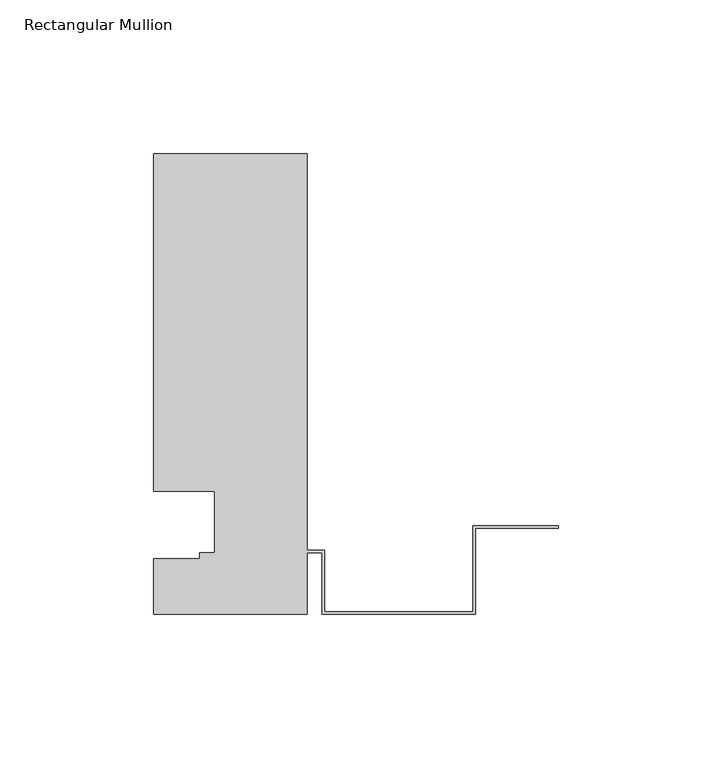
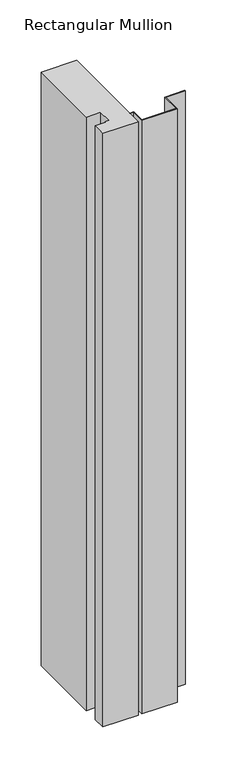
"""IFC4 building model written with IfcOpenShell, lengths in millimetres: member geometry, Rectangular Mullion : TR_CW_ALU_border_GROOVE."""

import ifcopenshell
import ifcopenshell.guid

model = None  # the IFC model being written
_history = None  # IfcOwnerHistory: only IFC2X3 demands one
_inside = {}  # id of a spatial element -> (the spatial element, [elements in it])
_under = {}  # id of a project, library or spatial element -> (it, [spatial elements below it])
_declared = {}  # id of a project -> (the project, [libraries it declares])
_typed = {}  # id of a type object -> (the type object, [elements of that type])
_made_of = {}  # id of a material, layer set ... -> (it, [elements and type objects made of it])


def new_model(schema):
    """Start an empty IFC model of exactly this schema.

    Asked for "IFC4X3", IfcOpenShell would pick the latest addendum, in which some entities
    have other attributes; the version numbers below select the first issue.
    IFC2X3 requires an IfcOwnerHistory on every rooted entity: one is made here for all.
    """
    global model, _history
    if schema == "IFC4X3":
        model = ifcopenshell.file(schema_version=(4, 3, 0, 0))
    else:
        model = ifcopenshell.file(schema=schema)
    _inside.clear()
    _under.clear()
    _declared.clear()
    _typed.clear()
    _made_of.clear()
    _history = None
    if model.schema == "IFC2X3":
        org = make("IfcOrganization", Name="unknown")
        user = make(
            "IfcPersonAndOrganization",
            ThePerson=make("IfcPerson", FamilyName="unknown"),
            TheOrganization=org,
        )
        app = make(
            "IfcApplication",
            ApplicationDeveloper=org,
            Version="unknown",
            ApplicationFullName="unknown",
            ApplicationIdentifier="unknown",
        )
        _history = make(
            "IfcOwnerHistory",
            OwningUser=user,
            OwningApplication=app,
            ChangeAction="ADDED",
            CreationDate=0,
        )
    return model


def make(cls, **values):
    """One entity of the class cls with the attributes given. An attribute that is None is left unset."""
    return model.create_entity(
        cls, **{name: value for name, value in values.items() if value is not None}
    )


def rooted(cls, **values):
    """An entity with a GlobalId (a new one), such as an element, a storey or a relation."""
    return make(cls, GlobalId=ifcopenshell.guid.new(), OwnerHistory=_history, **values)


def si_unit(unit_type, name, prefix=None):
    """IfcSIUnit, for example si_unit("LENGTHUNIT", "METRE", prefix="MILLI")."""
    return make("IfcSIUnit", UnitType=unit_type, Prefix=prefix, Name=name)


def assignment(units):
    """IfcUnitAssignment: the units of a project."""
    return None if units is None else make("IfcUnitAssignment", Units=units)


def point(xyz):
    """IfcCartesianPoint."""
    return None if xyz is None else make("IfcCartesianPoint", Coordinates=xyz)


def direction(xyz):
    """IfcDirection."""
    return None if xyz is None else make("IfcDirection", DirectionRatios=xyz)


def frame(location, z_axis=None, x_axis=None):
    """IfcAxis2Placement3D, a coordinate frame: its origin and axes. An axis left out is left unset."""
    return make(
        "IfcAxis2Placement3D",
        Location=point(location),
        Axis=direction(z_axis),
        RefDirection=direction(x_axis),
    )


def origin():
    """The frame at (0, 0, 0) with its axes left unset."""
    return frame((0.0, 0.0, 0.0))


def place(relative_to, where):
    """IfcLocalPlacement: puts the frame where relative to a parent placement (None: the world)."""
    return make(
        "IfcLocalPlacement", PlacementRelTo=relative_to, RelativePlacement=where
    )


def context(
    kind, dimensions, precision=None, world=None, true_north=None, identifier=None
):
    """IfcGeometricRepresentationContext, for example the 3D "Model" context."""
    return make(
        "IfcGeometricRepresentationContext",
        ContextIdentifier=identifier,
        ContextType=kind,
        CoordinateSpaceDimension=dimensions,
        Precision=precision,
        WorldCoordinateSystem=world,
        TrueNorth=true_north,
    )


def project(units=None, contexts=None):
    """IfcProject with its units and contexts."""
    return rooted(
        "IfcProject",
        Name="project",
        RepresentationContexts=contexts,
        UnitsInContext=assignment(units),
    )


def spatial(cls, under=None, at=None, **own):
    """A site, building, storey or space (cls), placed at a placement, below another one or the project."""
    s = rooted(cls, ObjectPlacement=at, **own)
    if under is not None:
        _under.setdefault(under.id(), (under, []))[1].append(s)
    return s


def polyline(points):
    """IfcPolyline through the points."""
    return make("IfcPolyline", Points=[point(p) for p in points])


def outline(outer, holes=None, kind="AREA"):
    """IfcArbitraryClosedProfileDef: a profile drawn as a closed curve; with holes, ...WithVoids."""
    if holes is None:
        return make("IfcArbitraryClosedProfileDef", ProfileType=kind, OuterCurve=outer)
    return make(
        "IfcArbitraryProfileDefWithVoids",
        ProfileType=kind,
        OuterCurve=outer,
        InnerCurves=holes,
    )


def extrude(swept, where, along, depth):
    """IfcExtrudedAreaSolid: the profile swept, set in the frame where, extruded along a direction by depth."""
    return make(
        "IfcExtrudedAreaSolid",
        SweptArea=swept,
        Position=where,
        ExtrudedDirection=direction(along),
        Depth=depth,
    )


def shape(context_of_items, identifier, shape_type, items):
    """IfcShapeRepresentation: the items that make up one representation, for example the "Body"."""
    return make(
        "IfcShapeRepresentation",
        ContextOfItems=context_of_items,
        RepresentationIdentifier=identifier,
        RepresentationType=shape_type,
        Items=items,
    )


def source(mapping_origin, context_of_items, identifier, shape_type, items):
    """IfcRepresentationMap: a shape defined once, which mapped items show again and again."""
    return make(
        "IfcRepresentationMap",
        MappingOrigin=mapping_origin,
        MappedRepresentation=shape(context_of_items, identifier, shape_type, items),
    )


def transform(
    local_origin,
    x_axis=None,
    y_axis=None,
    z_axis=None,
    scale=None,
    scale2=None,
    scale3=None,
    uniform=True,
):
    """IfcCartesianTransformationOperator3D, or its non-uniform kind. x_axis, y_axis, z_axis: its Axis1, 2, 3."""
    if uniform:
        return make(
            "IfcCartesianTransformationOperator3D",
            Axis1=direction(x_axis),
            Axis2=direction(y_axis),
            LocalOrigin=point(local_origin),
            Scale=scale,
            Axis3=direction(z_axis),
        )
    return make(
        "IfcCartesianTransformationOperator3DnonUniform",
        Axis1=direction(x_axis),
        Axis2=direction(y_axis),
        LocalOrigin=point(local_origin),
        Scale=scale,
        Axis3=direction(z_axis),
        Scale2=scale2,
        Scale3=scale3,
    )


def mapped(mapping_source, mapping_target):
    """IfcMappedItem: shows the shape of a source again, moved by a transform."""
    return make(
        "IfcMappedItem", MappingSource=mapping_source, MappingTarget=mapping_target
    )


def made_of(thing, what):
    """Note that an element or type object is made of a material, layer set ...; save() writes the relation."""
    if what is not None:
        _made_of.setdefault(what.id(), (what, []))[1].append(thing)
    return thing


def element(
    cls,
    number,
    at=None,
    inside=None,
    cuts=None,
    type_object=None,
    material=None,
    context=None,
    identifier="Body",
    shape_type=None,
    held_by="IfcProductDefinitionShape",
    body=None,
    shapes=None,
    **own,
):
    """One element of the class cls, such as IfcWall. Its Tag is "e" and its number.

    at: its placement. inside: the storey or other place that contains it. cuts: it is an
    opening in that element (IfcRelVoidsElement). A single representation is given by context,
    identifier, shape_type and body (its items); several are given by shapes. held_by: the class
    of the entity that holds the representations. save() writes the other relations.
    """
    e = rooted(cls, Tag="e%d" % number, ObjectPlacement=at, **own)
    if body is not None:
        shapes = [shape(context, identifier, shape_type, body)]
    if shapes is not None:
        e.Representation = make(held_by, Representations=shapes)
    if inside is not None:
        _inside.setdefault(inside.id(), (inside, []))[1].append(e)
    if cuts is not None:
        rooted(
            "IfcRelVoidsElement", RelatingBuildingElement=cuts, RelatedOpeningElement=e
        )
    if type_object is not None:
        _typed.setdefault(type_object.id(), (type_object, []))[1].append(e)
    return made_of(e, material)


def aggregate(whole, parts):
    """IfcRelAggregates: a whole, such as a stair, and the parts it consists of."""
    return rooted("IfcRelAggregates", RelatingObject=whole, RelatedObjects=parts)


def save(model, path):
    """Write the relations noted so far, then the file.

    IfcRelAggregates (storeys below a building ...), IfcRelContainedInSpatialStructure (elements
    in a storey), IfcRelDefinesByType, IfcRelAssociatesMaterial and IfcRelDeclares: one each for
    every whole, place, type object, material and project.
    """
    for whole, parts in _under.values():
        aggregate(whole, parts)
    for where, things in _inside.values():
        rooted(
            "IfcRelContainedInSpatialStructure",
            RelatedElements=things,
            RelatingStructure=where,
        )
    for kind, things in _typed.values():
        rooted("IfcRelDefinesByType", RelatedObjects=things, RelatingType=kind)
    for what, things in _made_of.values():
        rooted("IfcRelAssociatesMaterial", RelatedObjects=things, RelatingMaterial=what)
    for by, libraries in _declared.values():
        rooted("IfcRelDeclares", RelatingContext=by, RelatedDefinitions=libraries)
    model.write(path)


def rectangular_mullion_a6eaba93(model_context):
    return source(origin(), model_context, "Body", "SweptSolid", [
        extrude(outline(polyline([(-132.0, 0.0), (-132.0, 18.0204111), (-117.0, 18.0204111), (-117.0, 20.0), (-112.0, 20.0), (-112.0, 40.0), (-132.0, 40.0), (-132.0, 150.0), (-82.0, 150.0), (-82.0, 20.8), (-76.2, 20.8), (-76.2, 0.8), (-27.8, 0.8), (-27.8, 28.8), (0.0, 28.8), (0.0, 28.0), (-27.0, 28.0), (-27.0, 0.0), (-77.0, 0.0), (-77.0, 20.0), (-82.0, 20.0), (-82.0, 0.0), (-132.0, 0.0)])), frame((0.0, 0.0, -882.5), z_axis=(0.0, 0.0, 1.0), x_axis=(1.0, 0.0, 0.0)), (0.0, 0.0, 1.0), 882.5),
    ])


if __name__ == "__main__":
    model = new_model("IFC4")
    model_context = context("Model", 3, world=origin())
    ifc_project = project(units=[si_unit("LENGTHUNIT", "METRE", prefix="MILLI")], contexts=[model_context])
    site = spatial("IfcSite", under=ifc_project)
    building = spatial("IfcBuilding", under=site)
    placement = place(None, origin())
    rectangular_mullion_shape = rectangular_mullion_a6eaba93(model_context)
    element("IfcMember", 1, ObjectType="Rectangular Mullion : TR_CW_ALU_border_GROOVE", at=placement, inside=building, context=model_context, shape_type="MappedRepresentation", body=[
        mapped(rectangular_mullion_shape, transform((0.0, 0.0, 0.0), x_axis=(1.0, 0.0, 0.0), y_axis=(0.0, 1.0, 0.0), z_axis=(0.0, 0.0, 1.0))),
    ])
    save(model, "model.ifc")
